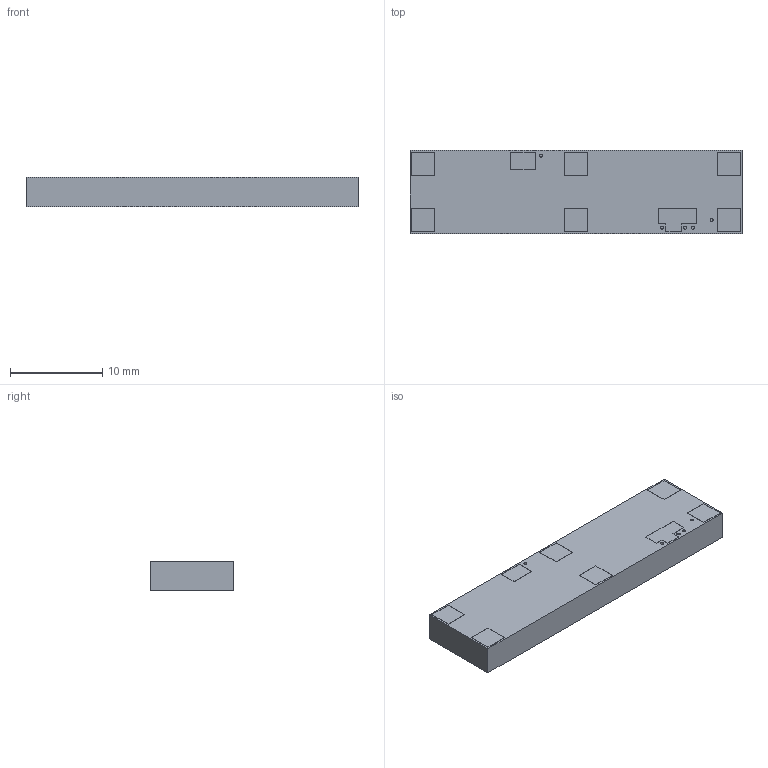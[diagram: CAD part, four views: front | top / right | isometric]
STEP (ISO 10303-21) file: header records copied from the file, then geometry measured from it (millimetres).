
FILE_DESCRIPTION((''),'2;1');
FILE_NAME('1004796','2019-09-20T',('mrodriguez'),(''),'CREO PARAMETRIC BY PTC INC, 2016130','CREO PARAMETRIC BY PTC INC, 2016130','');
FILE_SCHEMA(('AP203_CONFIGURATION_CONTROLLED_3D_DESIGN_OF_MECHANICAL_PARTS_AND_ASSEMBLIES_MIM_LF { 1 0 10303 403 2 1 2 }'));
Length unit declared in the file: millimetre
Products named in the file (1): 1004796
Bounding box: 36 x 9 x 3.23 mm (x, y, z)
Volume: 1036.8 mm3; surface area: 953.9 mm2
Topology: 1 solids, 1 shells, 65 faces, 752 edges, 702 vertices
Faces by surface type: plane 55, cylinder 10
Entity records: 8102 total; most frequent: CARTESIAN_POINT 1451, PRESENTATION_STYLE_ASSIGNMENT 802, STYLED_ITEM 802, CURVE_STYLE 801, DIRECTION 747, COMPOSITE_CURVE_SEGMENT 602, VECTOR 559, LINE 559
